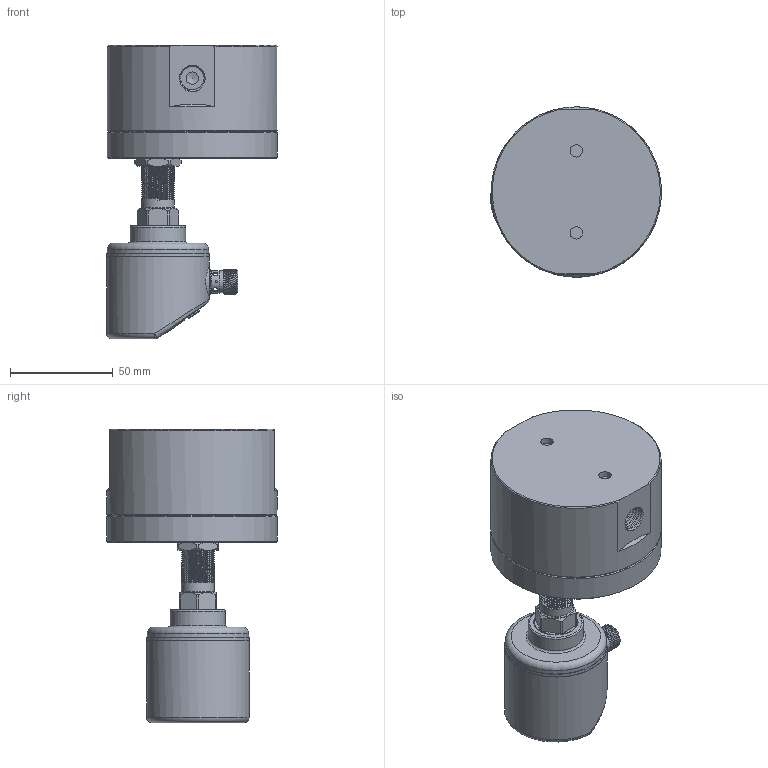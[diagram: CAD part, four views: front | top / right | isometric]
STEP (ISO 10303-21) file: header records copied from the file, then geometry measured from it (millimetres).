
FILE_DESCRIPTION (( 'STEP AP214' ), '1' );
FILE_NAME ('喘謫霜講數-M6.STEP', '2024-08-02T06:38:44', ( '' ), ( '' ), 'SwSTEP 2.0', 'SolidWorks 2020', '' );
FILE_SCHEMA (( 'AUTOMOTIVE_DESIGN' ));
Length unit declared in the file: millimetre
Products named in the file (13): 滅阨諉芛褲极1; 蹟譫1; 揤薯珆尨欶; 2; 揤薯奻裔; PVC躇猾菜; 偌瑩簽; 恦謫抻芛5; 翋极; 1; 抻芛俋蹟恇G1-4; 喘謫霜講數-M6; M6蹟佪
Assembly tree (21 placements, depth 3):
  喘謫霜講數-M6
    1
    2
    M6蹟佪  x8
    翋极
      揤薯奻裔
      揤薯珆尨欶
      滅阨諉芛褲极1
      偌瑩簽  x3
      PVC躇猾菜
      抻芛俋蹟恇G1-4
      恦謫抻芛5
      蹟譫1
Bounding box: 83.26 x 83 x 143 mm (x, y, z)
Volume: 316372.8 mm3; surface area: 79998 mm2
Topology: 20 solids, 20 shells, 2536 faces, 7171 edges, 4747 vertices
Faces by surface type: plane 1733, cylinder 673, cone 95, bspline 19, torus 12, sphere 4
Full cylindrical faces by diameter (mm): 1 x4, 1.2 x3, 1.8 x1, 2 x5, 2.5 x7, 2.8 x1, 4.3 x3, 4.5 x6, 4.915 x8, 6 x12, 7 x15, 7.2 x1, 8.5 x1, 9.75 x1, 10.5 x9, 10.7 x1, 10.8 x1, 10.9 x1, 11 x2, 12 x1, 14 x1, 14.3 x1, 14.4 x1, 14.8 x1, 16 x30, 17.34 x2, 17.4 x1, 21.24 x1, 21.3 x1, 24 x1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
Entity records: 32394 total; most frequent: CARTESIAN_POINT 16852, DIRECTION 2968, ORIENTED_EDGE 2964, EDGE_CURVE 1482, AXIS2_PLACEMENT_3D 1121, VERTEX_POINT 1045, EDGE_LOOP 889, FACE_OUTER_BOUND 732
